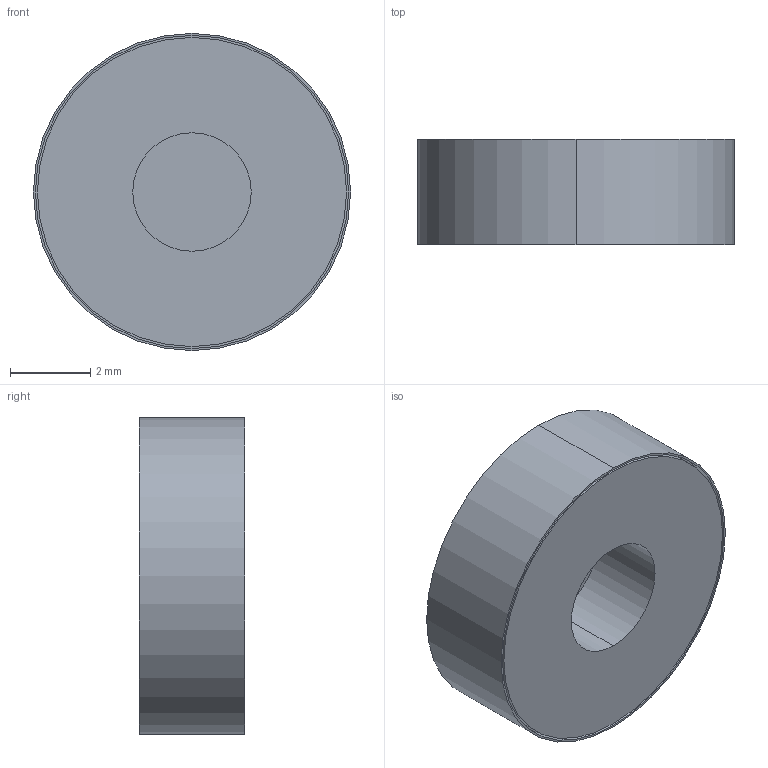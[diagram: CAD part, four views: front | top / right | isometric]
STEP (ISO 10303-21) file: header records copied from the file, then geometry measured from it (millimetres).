
FILE_DESCRIPTION (( 'STEP AP214' ), '1' );
FILE_NAME ('Boto vermell PP24.STEP', '2016-10-06T10:00:15', ( 'aaa' ), ( '' ), 'SwSTEP 2.0', 'SolidWorks 2013', '' );
FILE_SCHEMA (( 'AUTOMOTIVE_DESIGN' ));
Length unit declared in the file: millimetre
Products named in the file (1): Boto vermell PP24
Bounding box: 7.9 x 2.62 x 7.9 mm (x, y, z)
Volume: 114.4 mm3; surface area: 196.2 mm2
Topology: 1 solids, 1 shells, 13 faces, 24 edges, 16 vertices
Faces by surface type: cylinder 8, plane 5
Entity records: 368 total; most frequent: DIRECTION 68, CARTESIAN_POINT 54, ORIENTED_EDGE 48, AXIS2_PLACEMENT_3D 30, EDGE_CURVE 24, VERTEX_POINT 16, CIRCLE 16, EDGE_LOOP 16
